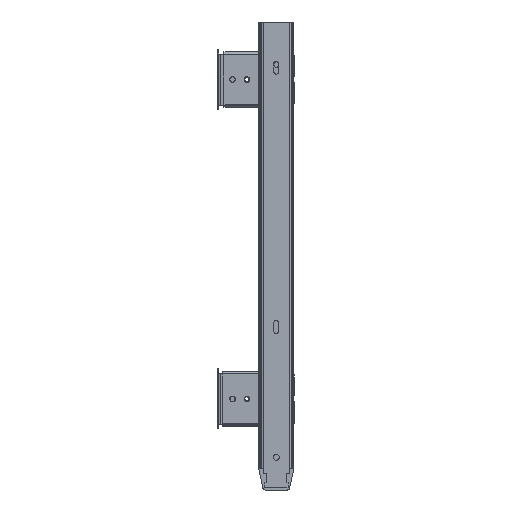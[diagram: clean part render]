
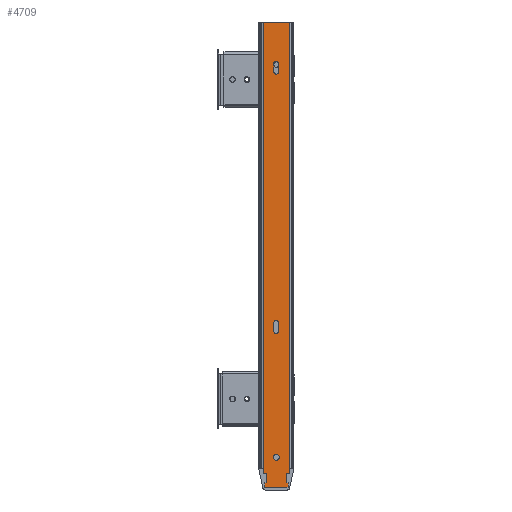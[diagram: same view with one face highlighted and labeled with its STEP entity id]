
A CAD part, left-side view. The second image highlights one B-rep face of the part: STEP entity #4709.
In plain terms, the highlighted planar face has unit normal (-1, 0, 0).
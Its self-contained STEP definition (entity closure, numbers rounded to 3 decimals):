
#80=FACE_BOUND('',#781,.T.);
#81=FACE_BOUND('',#782,.T.);
#82=FACE_BOUND('',#783,.T.);
#287=CIRCLE('',#4965,2.);
#289=CIRCLE('',#4969,2.);
#291=CIRCLE('',#4973,2.25);
#293=CIRCLE('',#4976,2.);
#295=CIRCLE('',#4980,2.);
#531=FACE_OUTER_BOUND('',#780,.T.);
#780=EDGE_LOOP('',(#3179,#3180,#3181,#3182,#3183,#3184,#3185,#3186,#3187,
#3188,#3189,#3190,#3191,#3192,#3193,#3194));
#781=EDGE_LOOP('',(#3195,#3196,#3197,#3198));
#782=EDGE_LOOP('',(#3199));
#783=EDGE_LOOP('',(#3200,#3201,#3202,#3203));
#1082=LINE('',#6765,#1492);
#1085=LINE('',#6771,#1495);
#1091=LINE('',#6796,#1501);
#1094=LINE('',#6802,#1504);
#1097=LINE('',#6808,#1507);
#1100=LINE('',#6812,#1510);
#1103=LINE('',#6820,#1513);
#1106=LINE('',#6826,#1516);
#1109=LINE('',#6832,#1519);
#1112=LINE('',#6838,#1522);
#1116=LINE('',#6845,#1526);
#1121=LINE('',#6867,#1531);
#1132=LINE('',#6899,#1542);
#1138=LINE('',#6917,#1548);
#1142=LINE('',#6927,#1552);
#1146=LINE('',#6946,#1556);
#1150=LINE('',#6956,#1560);
#1164=LINE('',#6995,#1574);
#1165=LINE('',#6997,#1575);
#1166=LINE('',#6998,#1576);
#1492=VECTOR('',#5405,4.);
#1495=VECTOR('',#5410,0.038);
#1501=VECTOR('',#5430,3.5);
#1504=VECTOR('',#5435,1.5);
#1507=VECTOR('',#5440,7.);
#1510=VECTOR('',#5445,2.5);
#1513=VECTOR('',#5450,2.5);
#1516=VECTOR('',#5455,7.);
#1519=VECTOR('',#5460,1.5);
#1522=VECTOR('',#5465,3.5);
#1526=VECTOR('',#5471,4.);
#1531=VECTOR('',#5490,0.038);
#1542=VECTOR('',#5525,342.5);
#1548=VECTOR('',#5541,6.);
#1552=VECTOR('',#5553,6.);
#1556=VECTOR('',#5571,6.);
#1560=VECTOR('',#5583,6.);
#1574=VECTOR('',#5629,18.);
#1575=VECTOR('',#5630,20.076);
#1576=VECTOR('',#5631,342.5);
#1902=VERTEX_POINT('',#6762);
#1903=VERTEX_POINT('',#6764);
#1905=VERTEX_POINT('',#6770);
#1916=VERTEX_POINT('',#6793);
#1917=VERTEX_POINT('',#6795);
#1919=VERTEX_POINT('',#6801);
#1921=VERTEX_POINT('',#6807);
#1924=VERTEX_POINT('',#6817);
#1925=VERTEX_POINT('',#6819);
#1927=VERTEX_POINT('',#6825);
#1929=VERTEX_POINT('',#6831);
#1931=VERTEX_POINT('',#6837);
#1933=VERTEX_POINT('',#6843);
#1943=VERTEX_POINT('',#6865);
#1952=VERTEX_POINT('',#6897);
#1956=VERTEX_POINT('',#6908);
#1957=VERTEX_POINT('',#6910);
#1959=VERTEX_POINT('',#6916);
#1961=VERTEX_POINT('',#6922);
#1963=VERTEX_POINT('',#6931);
#1966=VERTEX_POINT('',#6937);
#1967=VERTEX_POINT('',#6939);
#1969=VERTEX_POINT('',#6945);
#1971=VERTEX_POINT('',#6951);
#1981=VERTEX_POINT('',#6996);
#2352=EDGE_CURVE('',#1903,#1902,#1082,.T.);
#2355=EDGE_CURVE('',#1905,#1903,#1085,.T.);
#2367=EDGE_CURVE('',#1917,#1916,#1091,.T.);
#2370=EDGE_CURVE('',#1919,#1917,#1094,.T.);
#2373=EDGE_CURVE('',#1921,#1919,#1097,.T.);
#2376=EDGE_CURVE('',#1902,#1921,#1100,.T.);
#2379=EDGE_CURVE('',#1925,#1924,#1103,.T.);
#2382=EDGE_CURVE('',#1927,#1925,#1106,.T.);
#2385=EDGE_CURVE('',#1929,#1927,#1109,.T.);
#2388=EDGE_CURVE('',#1931,#1929,#1112,.T.);
#2392=EDGE_CURVE('',#1924,#1933,#1116,.T.);
#2403=EDGE_CURVE('',#1933,#1943,#1121,.T.);
#2419=EDGE_CURVE('',#1943,#1952,#1132,.T.);
#2424=EDGE_CURVE('',#1957,#1956,#287,.T.);
#2427=EDGE_CURVE('',#1959,#1957,#1138,.T.);
#2430=EDGE_CURVE('',#1961,#1959,#289,.T.);
#2433=EDGE_CURVE('',#1956,#1961,#1142,.T.);
#2435=EDGE_CURVE('',#1963,#1963,#291,.T.);
#2438=EDGE_CURVE('',#1967,#1966,#293,.T.);
#2441=EDGE_CURVE('',#1969,#1967,#1146,.T.);
#2444=EDGE_CURVE('',#1971,#1969,#295,.T.);
#2447=EDGE_CURVE('',#1966,#1971,#1150,.T.);
#2467=EDGE_CURVE('',#1931,#1916,#1164,.T.);
#2468=EDGE_CURVE('',#1981,#1952,#1165,.T.);
#2469=EDGE_CURVE('',#1981,#1905,#1166,.T.);
#3179=ORIENTED_EDGE('',*,*,#2367,.T.);
#3180=ORIENTED_EDGE('',*,*,#2467,.F.);
#3181=ORIENTED_EDGE('',*,*,#2388,.T.);
#3182=ORIENTED_EDGE('',*,*,#2385,.T.);
#3183=ORIENTED_EDGE('',*,*,#2382,.T.);
#3184=ORIENTED_EDGE('',*,*,#2379,.T.);
#3185=ORIENTED_EDGE('',*,*,#2392,.T.);
#3186=ORIENTED_EDGE('',*,*,#2403,.T.);
#3187=ORIENTED_EDGE('',*,*,#2419,.T.);
#3188=ORIENTED_EDGE('',*,*,#2468,.F.);
#3189=ORIENTED_EDGE('',*,*,#2469,.T.);
#3190=ORIENTED_EDGE('',*,*,#2355,.T.);
#3191=ORIENTED_EDGE('',*,*,#2352,.T.);
#3192=ORIENTED_EDGE('',*,*,#2376,.T.);
#3193=ORIENTED_EDGE('',*,*,#2373,.T.);
#3194=ORIENTED_EDGE('',*,*,#2370,.T.);
#3195=ORIENTED_EDGE('',*,*,#2430,.T.);
#3196=ORIENTED_EDGE('',*,*,#2427,.T.);
#3197=ORIENTED_EDGE('',*,*,#2424,.T.);
#3198=ORIENTED_EDGE('',*,*,#2433,.T.);
#3199=ORIENTED_EDGE('',*,*,#2435,.T.);
#3200=ORIENTED_EDGE('',*,*,#2444,.T.);
#3201=ORIENTED_EDGE('',*,*,#2441,.T.);
#3202=ORIENTED_EDGE('',*,*,#2438,.T.);
#3203=ORIENTED_EDGE('',*,*,#2447,.T.);
#4298=PLANE('',#4997);
#4709=ADVANCED_FACE('',(#531,#80,#81,#82),#4298,.T.);
#4965=AXIS2_PLACEMENT_3D('',#6911,#5535,#5536);
#4969=AXIS2_PLACEMENT_3D('',#6923,#5547,#5548);
#4973=AXIS2_PLACEMENT_3D('',#6932,#5558,#5559);
#4976=AXIS2_PLACEMENT_3D('',#6940,#5565,#5566);
#4980=AXIS2_PLACEMENT_3D('',#6952,#5577,#5578);
#4997=AXIS2_PLACEMENT_3D('',#6994,#5627,#5628);
#5405=DIRECTION('',(0.,0.,-1.));
#5410=DIRECTION('',(0.,-1.,0.));
#5430=DIRECTION('',(0.,0.,-1.));
#5435=DIRECTION('',(0.,1.,0.));
#5440=DIRECTION('',(0.,0.,-1.));
#5445=DIRECTION('',(0.,-1.,0.));
#5450=DIRECTION('',(0.,-1.,0.));
#5455=DIRECTION('',(0.,0.,1.));
#5460=DIRECTION('',(0.,1.,0.));
#5465=DIRECTION('',(0.,0.,1.));
#5471=DIRECTION('',(0.,0.,1.));
#5490=DIRECTION('',(0.,-1.,0.));
#5525=DIRECTION('',(0.,0.,1.));
#5535=DIRECTION('center_axis',(1.,0.,0.));
#5536=DIRECTION('ref_axis',(0.,1.,0.));
#5541=DIRECTION('',(0.,0.,1.));
#5547=DIRECTION('center_axis',(1.,0.,0.));
#5548=DIRECTION('ref_axis',(0.,-1.,0.));
#5553=DIRECTION('',(0.,0.,-1.));
#5558=DIRECTION('center_axis',(1.,0.,0.));
#5559=DIRECTION('ref_axis',(0.,0.,1.));
#5565=DIRECTION('center_axis',(1.,0.,0.));
#5566=DIRECTION('ref_axis',(0.,1.,0.));
#5571=DIRECTION('',(0.,0.,1.));
#5577=DIRECTION('center_axis',(1.,0.,0.));
#5578=DIRECTION('ref_axis',(0.,-1.,0.));
#5583=DIRECTION('',(0.,0.,-1.));
#5627=DIRECTION('center_axis',(-1.,0.,0.));
#5628=DIRECTION('ref_axis',(0.,1.,0.));
#5629=DIRECTION('',(0.,1.,0.));
#5630=DIRECTION('',(0.,-1.,0.));
#5631=DIRECTION('',(0.,0.,-1.));
#6762=CARTESIAN_POINT('',(0.,10.,-346.5));
#6764=CARTESIAN_POINT('',(0.,10.,-342.5));
#6765=CARTESIAN_POINT('',(0.,10.,-171.25));
#6770=CARTESIAN_POINT('',(0.,10.038,-342.5));
#6771=CARTESIAN_POINT('',(0.,0.875,-342.5));
#6793=CARTESIAN_POINT('',(0.,9.,-357.));
#6795=CARTESIAN_POINT('',(0.,9.,-353.5));
#6796=CARTESIAN_POINT('',(0.,9.,-176.75));
#6801=CARTESIAN_POINT('',(0.,7.5,-353.5));
#6802=CARTESIAN_POINT('',(0.,-2.125,-353.5));
#6807=CARTESIAN_POINT('',(0.,7.5,-346.5));
#6808=CARTESIAN_POINT('',(0.,7.5,-173.25));
#6812=CARTESIAN_POINT('',(0.,-0.875,-346.5));
#6817=CARTESIAN_POINT('',(0.,-10.,-346.5));
#6819=CARTESIAN_POINT('',(0.,-7.5,-346.5));
#6820=CARTESIAN_POINT('',(0.,-9.625,-346.5));
#6825=CARTESIAN_POINT('',(0.,-7.5,-353.5));
#6826=CARTESIAN_POINT('',(0.,-7.5,-176.75));
#6831=CARTESIAN_POINT('',(0.,-9.,-353.5));
#6832=CARTESIAN_POINT('',(0.,-10.375,-353.5));
#6837=CARTESIAN_POINT('',(0.,-9.,-357.));
#6838=CARTESIAN_POINT('',(0.,-9.,-178.5));
#6843=CARTESIAN_POINT('',(0.,-10.,-342.5));
#6845=CARTESIAN_POINT('',(0.,-10.,-173.25));
#6865=CARTESIAN_POINT('',(0.,-10.038,-342.5));
#6867=CARTESIAN_POINT('',(0.,-10.875,-342.5));
#6897=CARTESIAN_POINT('',(0.,-10.038,0.));
#6899=CARTESIAN_POINT('',(0.,-10.038,0.));
#6908=CARTESIAN_POINT('',(0.,-2.,-32.));
#6910=CARTESIAN_POINT('',(0.,2.,-32.));
#6911=CARTESIAN_POINT('Origin',(0.,0.,-32.));
#6916=CARTESIAN_POINT('',(0.,2.,-38.));
#6917=CARTESIAN_POINT('',(0.,2.,-19.));
#6922=CARTESIAN_POINT('',(0.,-2.,-38.));
#6923=CARTESIAN_POINT('Origin',(0.,0.,-38.));
#6927=CARTESIAN_POINT('',(0.,-2.,-16.));
#6931=CARTESIAN_POINT('',(0.,0.,-336.25));
#6932=CARTESIAN_POINT('Origin',(0.,0.,-334.));
#6937=CARTESIAN_POINT('',(0.,-2.,-231.));
#6939=CARTESIAN_POINT('',(0.,2.,-231.));
#6940=CARTESIAN_POINT('Origin',(0.,0.,-231.));
#6945=CARTESIAN_POINT('',(0.,2.,-237.));
#6946=CARTESIAN_POINT('',(0.,2.,-118.5));
#6951=CARTESIAN_POINT('',(0.,-2.,-237.));
#6952=CARTESIAN_POINT('Origin',(0.,0.,-237.));
#6956=CARTESIAN_POINT('',(0.,-2.,-115.5));
#6994=CARTESIAN_POINT('Origin',(0.,-11.75,0.));
#6995=CARTESIAN_POINT('',(0.,11.75,-357.));
#6996=CARTESIAN_POINT('',(0.,10.038,0.));
#6997=CARTESIAN_POINT('',(0.,11.75,0.));
#6998=CARTESIAN_POINT('',(0.,10.038,0.));
